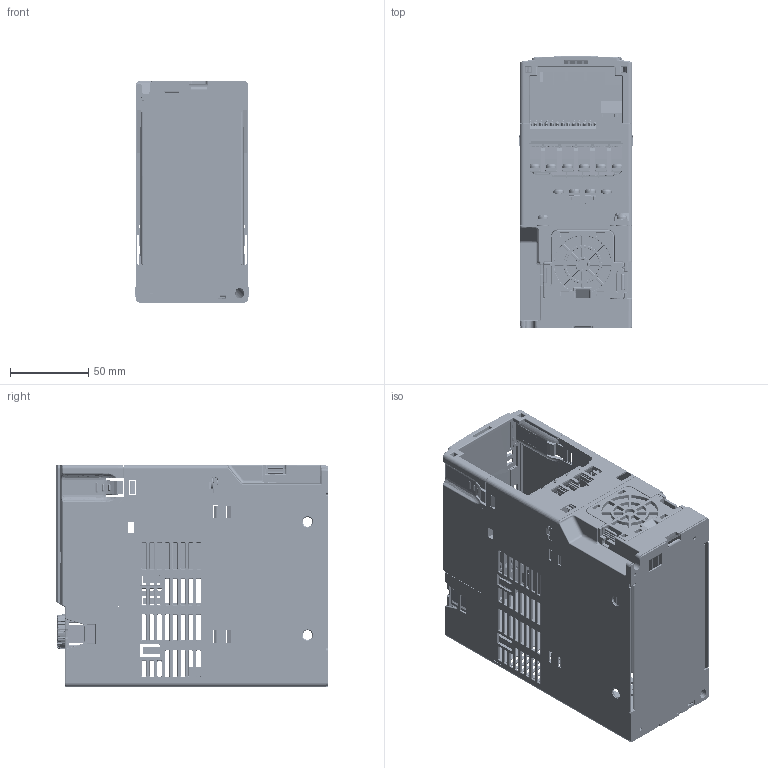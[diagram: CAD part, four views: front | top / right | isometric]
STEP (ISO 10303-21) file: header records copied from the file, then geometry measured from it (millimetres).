
FILE_DESCRIPTION((''),'2;1');
FILE_NAME('ASM0216_ASM','2018-01-24T',('KEN.HUNG'),(''),'PRO/ENGINEER BY PARAMETRIC TECHNOLOGY CORPORATION, 2015240','PRO/ENGINEER BY PARAMETRIC TECHNOLOGY CORPORATION, 2015240','');
FILE_SCHEMA(('AUTOMOTIVE_DESIGN { 1 0 10303 214 1 1 1 1 }'));
Products named in the file (112): PRT0476; PRT0477; ASM0226_ASM; ASM0225_ASM; PRT0478; PRT0479; ASM0224_ASM; PRT0480; PRT0481; PRT0482; PRT0483; PRT0484; PRT0485; PRT0486; PRT0487; ASM0227_ASM; ASM0223_ASM; ASM0222_ASM; ASM0221_ASM; ASM0220_ASM; PRT0488; PRT0489; PRT0490; ASM0229_ASM; ASM0228_ASM; PRT0491; ASM0230_ASM; PRT0492; PRT0493; PRT0494; PRT0495; PRT0496; PRT0497; ASM0232_ASM; ASM0231_ASM; PRT0498; ASM0233_ASM; PRT0499; PRT0500; PRT0501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
Assembly tree (113 placements, depth 12):
  ASM0216_ASM
    ASM0217_ASM
      ASM0218_ASM
        ASM0219_ASM
          ASM0220_ASM
            ASM0221_ASM
              ASM0222_ASM
                ASM0223_ASM
                  ASM0224_ASM
                  ASM0227_ASM
          ASM0228_ASM
            ASM0229_ASM
              PRT0488
              PRT0489
              PRT0490
          ASM0230_ASM
            PRT0491
          ASM0231_ASM
            ASM0232_ASM
              PRT0492
              PRT0493
              PRT0494
              PRT0495
              PRT0496
              PRT0497
          ASM0233_ASM
            PRT0498
          ASM0234_ASM
            ASM0235_ASM
              PRT0499
              PRT0500
              PRT0501
              PRT0502
              PRT0503
              PRT0504
              PRT0505
              PRT0506
              PRT0507
              PRT0508
              PRT0509
              PRT0510
              PRT0511
          ASM0236_ASM
            ASM0237_ASM
              PRT0512
              PRT0513  x2
              PRT0514
          ASM0238_ASM
            ASM0239_ASM
              PRT0515
              PRT0516
            PRT0517  x2
        ASM0240_ASM
          ASM0241_ASM
            ASM0242_ASM
              PRT0518
              ASM0243_ASM
                PRT0519
                PRT0520
                PRT0521
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Bounding box: 72.6 x 174 x 142.3 mm (x, y, z)
Volume: 151462.7 mm3; surface area: 253730.7 mm2
Topology: 74 solids, 75 shells, 8707 faces, 23753 edges, 15082 vertices
Faces by surface type: plane 4493, cylinder 2561, bspline 560, cone 382, extrusion 329, torus 303, sphere 79
Entity records: 320022 total; most frequent: CARTESIAN_POINT 104605, ORIENTED_EDGE 46952, DIRECTION 38759, EDGE_CURVE 23480, VERTEX_POINT 14966, VECTOR 14877, LINE 14548, AXIS2_PLACEMENT_3D 11941
